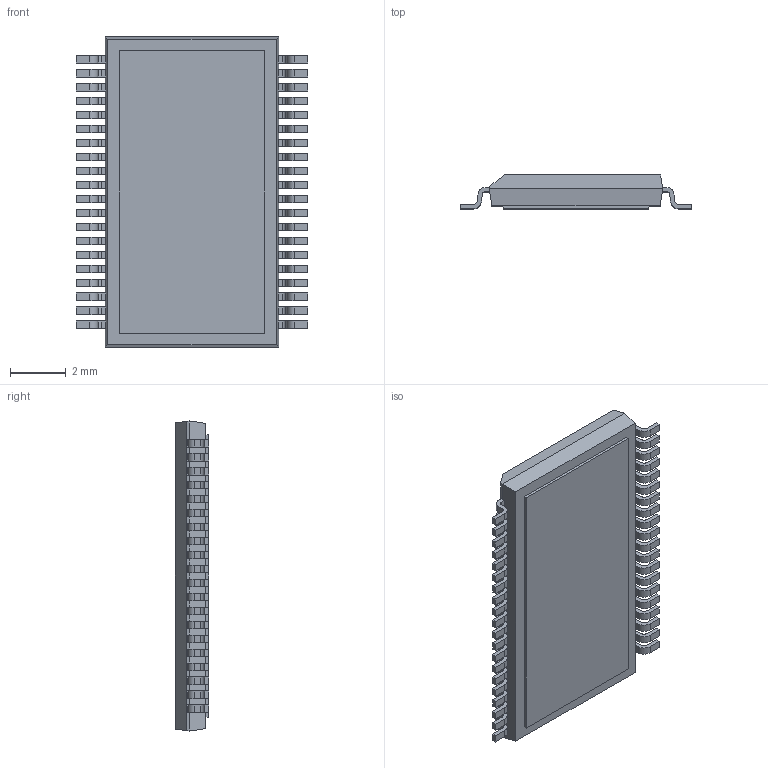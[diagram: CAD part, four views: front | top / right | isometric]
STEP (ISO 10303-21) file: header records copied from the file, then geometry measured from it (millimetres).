
FILE_DESCRIPTION (( 'STEP AP214' ), '1' );
FILE_NAME ('TSSOP50P810X120-40TP_MO-153.ECT.STEP', '2014-10-29T08:32:07', ( 'Tester2' ), ( '' ), 'SwSTEP 2.0', 'SolidWorks 2012', '' );
FILE_SCHEMA (( 'AUTOMOTIVE_DESIGN' ));
Length unit declared in the file: millimetre
Products named in the file (1): TSSOP50P810X120-40TP_MO-153.ECT
Bounding box: 8.3 x 1.2 x 11.1 mm (x, y, z)
Volume: 80.8 mm3; surface area: 220.4 mm2
Topology: 1 solids, 1 shells, 539 faces, 1601 edges, 1066 vertices
Faces by surface type: plane 377, cylinder 162
Entity records: 23829 total; most frequent: CARTESIAN_POINT 3207, ORIENTED_EDGE 3202, DIRECTION 3005, EDGE_CURVE 1601, LINE 1277, VECTOR 1277, VERTEX_POINT 1066, AXIS2_PLACEMENT_3D 864
